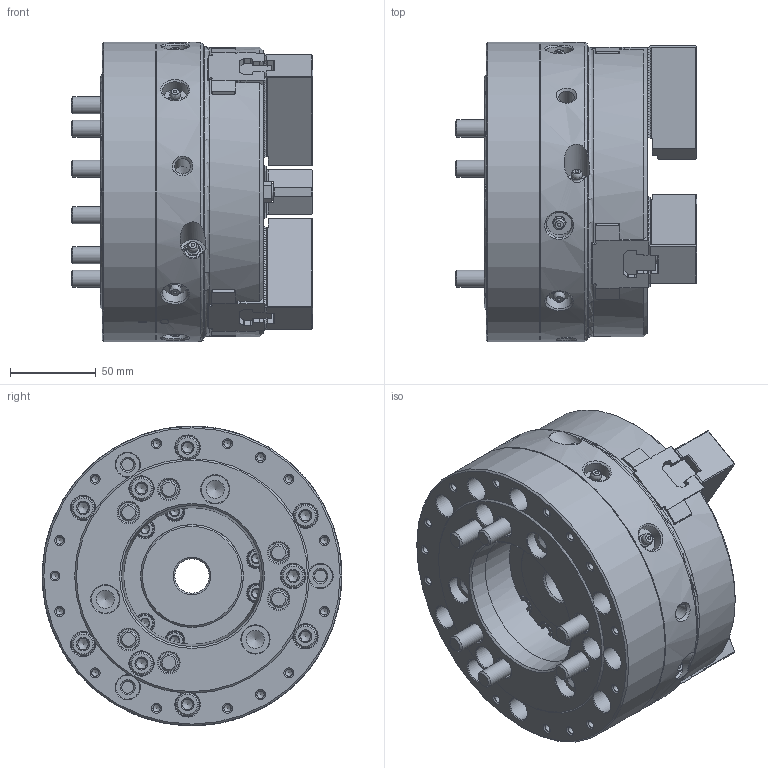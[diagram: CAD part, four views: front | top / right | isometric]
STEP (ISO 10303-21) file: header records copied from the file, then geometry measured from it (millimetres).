
FILE_DESCRIPTION (( 'STEP AP214' ), '1' );
FILE_NAME ('DT1_HOH-206_OUTSIDE_VIEW_UC.STEP', '2024-05-09T06:21:14', ( '' ), ( '' ), 'SwSTEP 2.0', 'SolidWorks 2022', '' );
FILE_SCHEMA (( 'AUTOMOTIVE_DESIGN' ));
Length unit declared in the file: millimetre
Products named in the file (9): DT1_HOH-206_DRAWNUT^DT1_HOH-206_ﾃﾞﾌｫﾙﾄ; DT1_HOH-206_SOFTJAW^DT1_HOH-206_ﾃﾞﾌｫﾙﾄ; DT1_HOH-206_TNUT^DT1_HOH-206_ﾃﾞﾌｫﾙﾄ; DT1_HOH-206_OUTSIDE_VIEW_UC; DT1_HOH-206_COVER^DT1_HOH-206_ﾃﾞﾌｫﾙﾄ; DT1_HOH-206_BASE^DT1_HOH-206_ﾃﾞﾌｫﾙﾄ; DT1_HOH-206_M10x25^DT1_HOH-206_ﾃﾞﾌｫﾙﾄ; DT1_HOH-206_M10x100^DT1_HOH-206_ﾃﾞﾌｫﾙﾄ; DT1_HOH-206_M5x10^DT1_HOH-206_ﾃﾞﾌｫﾙﾄ
Assembly tree (24 placements, depth 2):
  DT1_HOH-206_OUTSIDE_VIEW_UC
    DT1_HOH-206_SOFTJAW^DT1_HOH-206_ﾃﾞﾌｫﾙﾄ  x3
    DT1_HOH-206_TNUT^DT1_HOH-206_ﾃﾞﾌｫﾙﾄ  x3
    DT1_HOH-206_DRAWNUT^DT1_HOH-206_ﾃﾞﾌｫﾙﾄ
    DT1_HOH-206_COVER^DT1_HOH-206_ﾃﾞﾌｫﾙﾄ
    DT1_HOH-206_BASE^DT1_HOH-206_ﾃﾞﾌｫﾙﾄ
    DT1_HOH-206_M5x10^DT1_HOH-206_ﾃﾞﾌｫﾙﾄ  x3
    DT1_HOH-206_M10x25^DT1_HOH-206_ﾃﾞﾌｫﾙﾄ  x6
    DT1_HOH-206_M10x100^DT1_HOH-206_ﾃﾞﾌｫﾙﾄ  x6
Bounding box: 141 x 175 x 175 mm (x, y, z)
Volume: 2004542.5 mm3; surface area: 315629.5 mm2
Topology: 24 solids, 62 shells, 3722 faces, 10136 edges, 6654 vertices
Faces by surface type: plane 2665, cone 406, cylinder 404, bspline 172, torus 57, sphere 18
Full cylindrical faces by diameter (mm): 4.2 x18, 5 x3, 5.5 x6, 6.4 x3, 7 x12, 8 x6, 8.6 x6, 9 x9, 9.5 x3, 10 x15, 11 x6, 11.5 x3, 12 x12, 13.27 x9, 14 x12, 15 x10, 16.27 x12, 16.28 x3, 17 x12, 20 x1, 45 x1, 48 x2, 55.5 x1, 57.8 x2, 60 x2, 65.5 x2, 79.8 x1, 170.6 x1, 171 x2, 171.4 x1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
Entity records: 108073 total; most frequent: CARTESIAN_POINT 37098, ORIENTED_EDGE 15112, DIRECTION 13029, EDGE_CURVE 7556, VERTEX_POINT 5141, VECTOR 4953, LINE 4953, AXIS2_PLACEMENT_3D 4038
